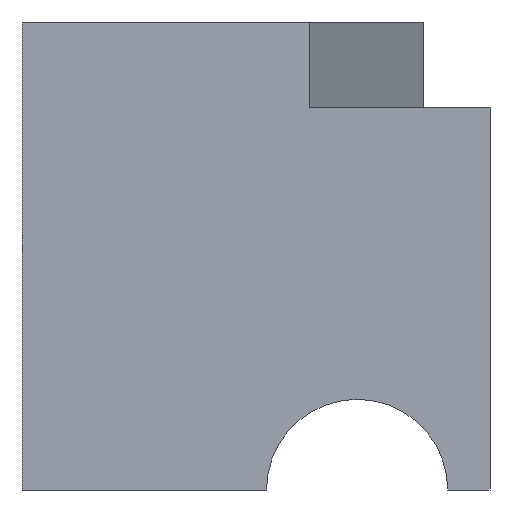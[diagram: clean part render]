
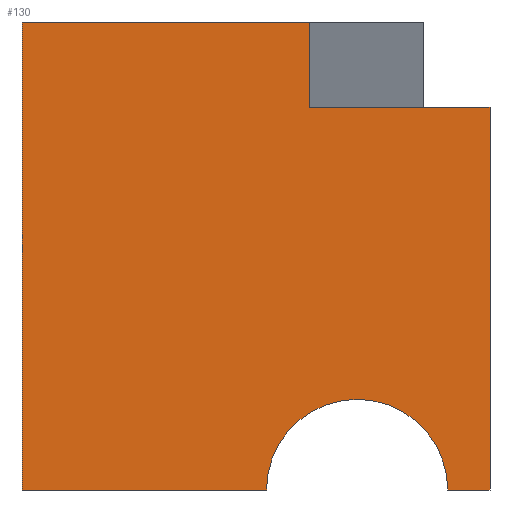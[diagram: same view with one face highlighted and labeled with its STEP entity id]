
A CAD part, left-side view. The second image highlights one B-rep face of the part: STEP entity #130.
In plain terms, the highlighted planar face has unit normal (-1, 0, 0).
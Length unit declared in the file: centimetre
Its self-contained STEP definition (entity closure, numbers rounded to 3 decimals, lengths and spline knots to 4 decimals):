
#3 = CARTESIAN_POINT ( 'NONE',  ( 0., 386.41, 818.1547 ) ) ;
#5 = LINE ( 'NONE', #350, #32 ) ;
#7 = CARTESIAN_POINT ( 'NONE',  ( 0., 0., 0. ) ) ;
#10 = CARTESIAN_POINT ( 'NONE',  ( 0., 477.4954, 0. ) ) ;
#12 = CARTESIAN_POINT ( 'NONE',  ( 0., 1000., 0. ) ) ;
#17 = VERTEX_POINT ( 'NONE', #137 ) ;
#20 = ORIENTED_EDGE ( 'NONE', *, *, #83, .T. ) ;
#23 = AXIS2_PLACEMENT_3D ( 'NONE', #170, #198, #233 ) ;
#29 = DIRECTION ( 'NONE',  ( 0., -1., 0. ) ) ;
#32 = VECTOR ( 'NONE', #202, 100. ) ;
#51 = FACE_OUTER_BOUND ( 'NONE', #338, .T. ) ;
#69 = EDGE_CURVE ( 'NONE', #289, #255, #221, .T. ) ;
#74 = AXIS2_PLACEMENT_3D ( 'NONE', #186, #136, #133 ) ;
#83 = EDGE_CURVE ( 'NONE', #97, #213, #314, .T. ) ;
#85 = LINE ( 'NONE', #129, #123 ) ;
#97 = VERTEX_POINT ( 'NONE', #285 ) ;
#106 = EDGE_CURVE ( 'NONE', #301, #304, #131, .T. ) ;
#123 = VECTOR ( 'NONE', #364, 100. ) ;
#128 = ORIENTED_EDGE ( 'NONE', *, *, #167, .T. ) ;
#129 = CARTESIAN_POINT ( 'NONE',  ( 0., 0., 1000. ) ) ;
#130 = ADVANCED_FACE ( 'NONE', ( #51 ), #162, .F. ) ;
#131 = LINE ( 'NONE', #306, #237 ) ;
#133 = DIRECTION ( 'NONE',  ( 0., 0., -1. ) ) ;
#136 = DIRECTION ( 'NONE',  ( 1., 0., 0. ) ) ;
#137 = CARTESIAN_POINT ( 'NONE',  ( 0., 1000., 1000. ) ) ;
#139 = VERTEX_POINT ( 'NONE', #263 ) ;
#145 = CARTESIAN_POINT ( 'NONE',  ( 0., 386.41, 818.1547 ) ) ;
#153 = EDGE_CURVE ( 'NONE', #139, #213, #85, .T. ) ;
#156 = ORIENTED_EDGE ( 'NONE', *, *, #299, .F. ) ;
#162 = PLANE ( 'NONE',  #74 ) ;
#167 = EDGE_CURVE ( 'NONE', #17, #301, #188, .T. ) ;
#170 = CARTESIAN_POINT ( 'NONE',  ( 0., 283.8059, 0. ) ) ;
#175 = VECTOR ( 'NONE', #250, 100. ) ;
#186 = CARTESIAN_POINT ( 'NONE',  ( 0., 1000., 1000. ) ) ;
#188 = LINE ( 'NONE', #195, #311 ) ;
#194 = ORIENTED_EDGE ( 'NONE', *, *, #69, .T. ) ;
#195 = CARTESIAN_POINT ( 'NONE',  ( 0., 1000., 1000. ) ) ;
#198 = DIRECTION ( 'NONE',  ( 1., 0., 0. ) ) ;
#202 = DIRECTION ( 'NONE',  ( 0., -1., 0. ) ) ;
#213 = VERTEX_POINT ( 'NONE', #7 ) ;
#219 = DIRECTION ( 'NONE',  ( 0., 0., -1. ) ) ;
#221 = LINE ( 'NONE', #3, #175 ) ;
#228 = EDGE_CURVE ( 'NONE', #304, #97, #262, .T. ) ;
#233 = DIRECTION ( 'NONE',  ( 0., 0., -1. ) ) ;
#237 = VECTOR ( 'NONE', #29, 100. ) ;
#242 = EDGE_CURVE ( 'NONE', #289, #139, #5, .T. ) ;
#245 = ORIENTED_EDGE ( 'NONE', *, *, #228, .T. ) ;
#249 = ORIENTED_EDGE ( 'NONE', *, *, #153, .F. ) ;
#250 = DIRECTION ( 'NONE',  ( 0., 0., 1. ) ) ;
#255 = VERTEX_POINT ( 'NONE', #294 ) ;
#260 = CARTESIAN_POINT ( 'NONE',  ( 0., 1000., 0. ) ) ;
#262 = CIRCLE ( 'NONE', #23, 193.6894 ) ;
#263 = CARTESIAN_POINT ( 'NONE',  ( 0., 0., 818.1547 ) ) ;
#271 = CARTESIAN_POINT ( 'NONE',  ( 0., 1000., 1000. ) ) ;
#272 = LINE ( 'NONE', #271, #329 ) ;
#276 = VECTOR ( 'NONE', #281, 100. ) ;
#281 = DIRECTION ( 'NONE',  ( 0., -1., 0. ) ) ;
#285 = CARTESIAN_POINT ( 'NONE',  ( 0., 90.1165, 0. ) ) ;
#289 = VERTEX_POINT ( 'NONE', #145 ) ;
#294 = CARTESIAN_POINT ( 'NONE',  ( 0., 386.41, 1000. ) ) ;
#299 = EDGE_CURVE ( 'NONE', #17, #255, #272, .T. ) ;
#301 = VERTEX_POINT ( 'NONE', #12 ) ;
#304 = VERTEX_POINT ( 'NONE', #10 ) ;
#306 = CARTESIAN_POINT ( 'NONE',  ( 0., 1000., 0. ) ) ;
#311 = VECTOR ( 'NONE', #219, 100. ) ;
#314 = LINE ( 'NONE', #260, #276 ) ;
#324 = DIRECTION ( 'NONE',  ( 0., -1., 0. ) ) ;
#329 = VECTOR ( 'NONE', #324, 100. ) ;
#338 = EDGE_LOOP ( 'NONE', ( #345, #194, #156, #128, #362, #245, #20, #249 ) ) ;
#345 = ORIENTED_EDGE ( 'NONE', *, *, #242, .F. ) ;
#350 = CARTESIAN_POINT ( 'NONE',  ( 0., 386.41, 818.1547 ) ) ;
#362 = ORIENTED_EDGE ( 'NONE', *, *, #106, .T. ) ;
#364 = DIRECTION ( 'NONE',  ( 0., 0., -1. ) ) ;
